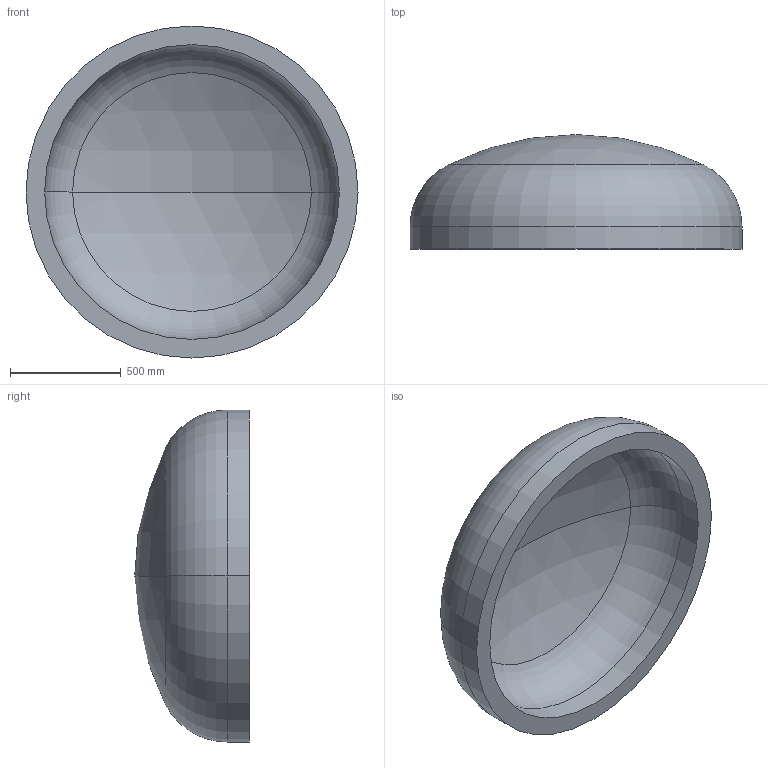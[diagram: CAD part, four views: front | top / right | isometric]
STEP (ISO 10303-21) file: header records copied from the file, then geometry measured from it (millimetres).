
FILE_DESCRIPTION (( 'STEP AP203' ), '1' );
FILE_NAME ('DIN 28013 Korbbogenform_-_Boden DIN 28013 - 1500 x 100 - I - s=84.step', '2016-07-01T10:55:14', ( '' ), ( '' ), 'SwSTEP 2.0', 'SolidWorks 2013', '' );
FILE_SCHEMA (( 'CONFIG_CONTROL_DESIGN' ));
Length unit declared in the file: millimetre
Products named in the file (1): DIN 28013 Korbbogenform_-_Boden DIN 28013 - 1500 x 100 - I - s=84
Bounding box: 1500 x 517.51 x 1500 mm (x, y, z)
Volume: 228576616 mm3; surface area: 5830750.7 mm2
Topology: 1 solids, 1 shells, 13 faces, 24 edges, 14 vertices
Faces by surface type: torus 4, cylinder 4, sphere 4, plane 1
Entity records: 407 total; most frequent: DIRECTION 72, CARTESIAN_POINT 52, ORIENTED_EDGE 48, AXIS2_PLACEMENT_3D 34, EDGE_CURVE 24, CIRCLE 20, VERTEX_POINT 14, EDGE_LOOP 14
